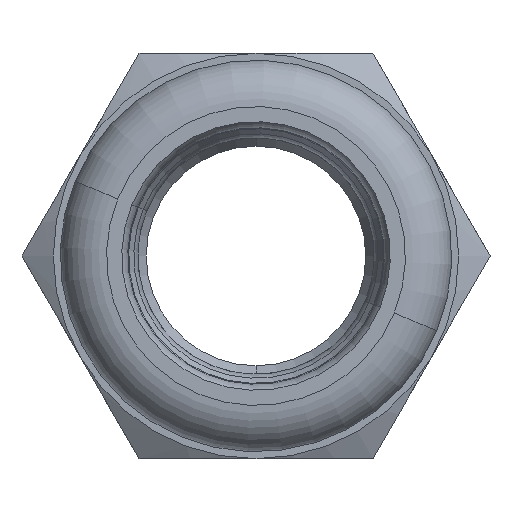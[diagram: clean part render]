
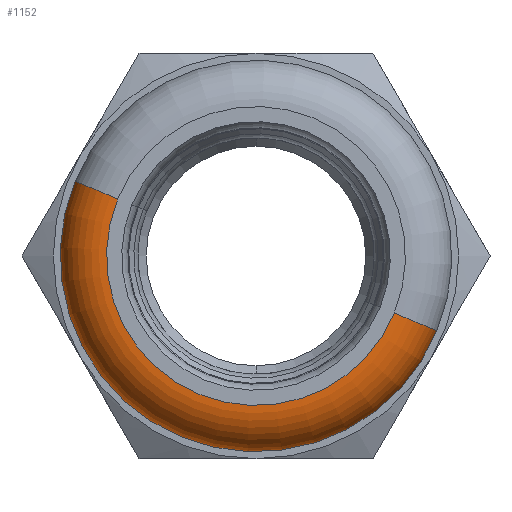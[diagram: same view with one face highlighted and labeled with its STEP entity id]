
A CAD part, left-side view. The second image highlights one B-rep face of the part: STEP entity #1152.
In plain terms, the highlighted toroidal (fillet/blend) face has major radius 8.85 mm and minor radius 2.75 mm.
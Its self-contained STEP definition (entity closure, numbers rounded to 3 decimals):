
#60 = CARTESIAN_POINT ( 'NONE',  ( 28., 0., 8.85 ) ) ;
#160 = DIRECTION ( 'NONE',  ( 0., 0., 1. ) ) ;
#183 = VERTEX_POINT ( 'NONE', #60 ) ;
#234 = DIRECTION ( 'NONE',  ( 0., 0., 1. ) ) ;
#263 = DIRECTION ( 'NONE',  ( 0., 1., 0. ) ) ;
#390 = VERTEX_POINT ( 'NONE', #3179 ) ;
#495 = AXIS2_PLACEMENT_3D ( 'NONE', #3003, #2051, #2662 ) ;
#515 = CARTESIAN_POINT ( 'NONE',  ( 23.305, 0., 0. ) ) ;
#516 = CIRCLE ( 'NONE', #3874, 2.75 ) ;
#595 = TOROIDAL_SURFACE ( 'NONE', #3847, 8.85, 2.75 ) ;
#613 = ORIENTED_EDGE ( 'NONE', *, *, #2531, .T. ) ;
#769 = DIRECTION ( 'NONE',  ( -1., 0., 0. ) ) ;
#958 = CIRCLE ( 'NONE', #2044, 2.75 ) ;
#1151 = VERTEX_POINT ( 'NONE', #2059 ) ;
#1152 = ADVANCED_FACE ( 'NONE', ( #3468 ), #595, .T. ) ;
#1166 = VERTEX_POINT ( 'NONE', #3049 ) ;
#1210 = ORIENTED_EDGE ( 'NONE', *, *, #2190, .F. ) ;
#1772 = CARTESIAN_POINT ( 'NONE',  ( 25.25, 0., 0. ) ) ;
#1885 = CARTESIAN_POINT ( 'NONE',  ( 25.25, 0., -8.85 ) ) ;
#2044 = AXIS2_PLACEMENT_3D ( 'NONE', #1885, #263, #2157 ) ;
#2051 = DIRECTION ( 'NONE',  ( -1., 0., 0. ) ) ;
#2059 = CARTESIAN_POINT ( 'NONE',  ( 28., 0., -8.85 ) ) ;
#2157 = DIRECTION ( 'NONE',  ( 0., 0., 1. ) ) ;
#2190 = EDGE_CURVE ( 'NONE', #183, #390, #516, .T. ) ;
#2531 = EDGE_CURVE ( 'NONE', #1151, #1166, #958, .T. ) ;
#2604 = EDGE_LOOP ( 'NONE', ( #3756, #613, #2717, #1210 ) ) ;
#2654 = EDGE_CURVE ( 'NONE', #183, #1151, #3114, .T. ) ;
#2662 = DIRECTION ( 'NONE',  ( 0., 0., 1. ) ) ;
#2717 = ORIENTED_EDGE ( 'NONE', *, *, #3914, .F. ) ;
#2861 = AXIS2_PLACEMENT_3D ( 'NONE', #515, #3478, #234 ) ;
#3003 = CARTESIAN_POINT ( 'NONE',  ( 28., 0., 0. ) ) ;
#3049 = CARTESIAN_POINT ( 'NONE',  ( 23.305, 0., -10.795 ) ) ;
#3114 = CIRCLE ( 'NONE', #495, 8.85 ) ;
#3179 = CARTESIAN_POINT ( 'NONE',  ( 23.305, 0., 10.795 ) ) ;
#3306 = DIRECTION ( 'NONE',  ( 0., -1., 0. ) ) ;
#3468 = FACE_OUTER_BOUND ( 'NONE', #2604, .T. ) ;
#3478 = DIRECTION ( 'NONE',  ( -1., 0., 0. ) ) ;
#3727 = CIRCLE ( 'NONE', #2861, 10.795 ) ;
#3756 = ORIENTED_EDGE ( 'NONE', *, *, #2654, .T. ) ;
#3847 = AXIS2_PLACEMENT_3D ( 'NONE', #1772, #769, #160 ) ;
#3874 = AXIS2_PLACEMENT_3D ( 'NONE', #3923, #3306, #4024 ) ;
#3914 = EDGE_CURVE ( 'NONE', #390, #1166, #3727, .T. ) ;
#3923 = CARTESIAN_POINT ( 'NONE',  ( 25.25, 0., 8.85 ) ) ;
#4024 = DIRECTION ( 'NONE',  ( 0., 0., -1. ) ) ;
